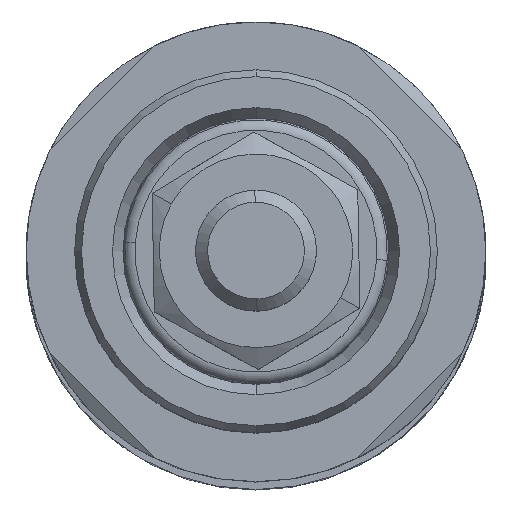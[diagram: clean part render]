
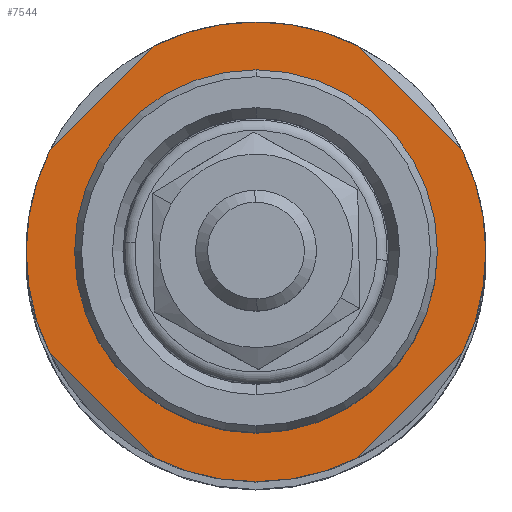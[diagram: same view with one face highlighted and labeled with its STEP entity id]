
A CAD part, top view. The second image highlights one B-rep face of the part: STEP entity #7544.
In plain terms, the highlighted planar face has unit normal (0, 0, 1).
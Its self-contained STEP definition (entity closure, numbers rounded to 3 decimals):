
#245 = CARTESIAN_POINT ( 'NONE',  ( -12.728, 12.728, 0. ) ) ;
#671 = EDGE_LOOP ( 'NONE', ( #7472, #3080, #1374, #857, #5847, #3413, #2114, #2244, #2336, #4556 ) ) ;
#774 = VERTEX_POINT ( 'NONE', #6790 ) ;
#801 = VECTOR ( 'NONE', #4721, 1000. ) ;
#857 = ORIENTED_EDGE ( 'NONE', *, *, #8112, .F. ) ;
#903 = VERTEX_POINT ( 'NONE', #3245 ) ;
#925 = CIRCLE ( 'NONE', #2589, 19. ) ;
#947 = EDGE_CURVE ( 'NONE', #7850, #7350, #8161, .T. ) ;
#981 = VECTOR ( 'NONE', #5676, 1000. ) ;
#1197 = VERTEX_POINT ( 'NONE', #5528 ) ;
#1361 = DIRECTION ( 'NONE',  ( 1., 0., 0. ) ) ;
#1367 = CARTESIAN_POINT ( 'NONE',  ( 0., 0., 0. ) ) ;
#1374 = ORIENTED_EDGE ( 'NONE', *, *, #4068, .T. ) ;
#1392 = CARTESIAN_POINT ( 'NONE',  ( 17.029, 8.427, 0. ) ) ;
#1415 = CARTESIAN_POINT ( 'NONE',  ( 0., 0., 0. ) ) ;
#1419 = LINE ( 'NONE', #245, #1723 ) ;
#1448 = DIRECTION ( 'NONE',  ( 0., 0., 1. ) ) ;
#1488 = CARTESIAN_POINT ( 'NONE',  ( 0., 0., 0. ) ) ;
#1604 = CARTESIAN_POINT ( 'NONE',  ( -17.029, -8.427, 0. ) ) ;
#1619 = AXIS2_PLACEMENT_3D ( 'NONE', #4135, #6113, #1670 ) ;
#1670 = DIRECTION ( 'NONE',  ( 1., 0., 0. ) ) ;
#1723 = VECTOR ( 'NONE', #7370, 1000. ) ;
#1806 = AXIS2_PLACEMENT_3D ( 'NONE', #8299, #6349, #7619 ) ;
#1876 = VERTEX_POINT ( 'NONE', #2706 ) ;
#1967 = CARTESIAN_POINT ( 'NONE',  ( 0., 0., 0. ) ) ;
#2051 = VERTEX_POINT ( 'NONE', #4811 ) ;
#2114 = ORIENTED_EDGE ( 'NONE', *, *, #3116, .T. ) ;
#2119 = EDGE_LOOP ( 'NONE', ( #6821, #5249 ) ) ;
#2121 = AXIS2_PLACEMENT_3D ( 'NONE', #1488, #2867, #5989 ) ;
#2204 = EDGE_CURVE ( 'NONE', #1197, #8282, #3412, .T. ) ;
#2242 = CARTESIAN_POINT ( 'NONE',  ( 0., 0., 0. ) ) ;
#2244 = ORIENTED_EDGE ( 'NONE', *, *, #6875, .T. ) ;
#2293 = EDGE_CURVE ( 'NONE', #7350, #7850, #3303, .T. ) ;
#2336 = ORIENTED_EDGE ( 'NONE', *, *, #2375, .F. ) ;
#2375 = EDGE_CURVE ( 'NONE', #1876, #2621, #6409, .T. ) ;
#2391 = EDGE_CURVE ( 'NONE', #5612, #774, #3895, .T. ) ;
#2474 = LINE ( 'NONE', #5935, #801 ) ;
#2498 = CARTESIAN_POINT ( 'NONE',  ( 0., 15., 0. ) ) ;
#2589 = AXIS2_PLACEMENT_3D ( 'NONE', #2242, #3057, #4889 ) ;
#2606 = DIRECTION ( 'NONE',  ( 1., 0., 0. ) ) ;
#2621 = VERTEX_POINT ( 'NONE', #1604 ) ;
#2706 = CARTESIAN_POINT ( 'NONE',  ( -8.427, -17.029, 0. ) ) ;
#2716 = DIRECTION ( 'NONE',  ( 0.707, -0.707, 0. ) ) ;
#2867 = DIRECTION ( 'NONE',  ( 0., 0., 1. ) ) ;
#2958 = LINE ( 'NONE', #7237, #3574 ) ;
#3057 = DIRECTION ( 'NONE',  ( 0., 0., 1. ) ) ;
#3076 = CIRCLE ( 'NONE', #4565, 19. ) ;
#3080 = ORIENTED_EDGE ( 'NONE', *, *, #2391, .T. ) ;
#3116 = EDGE_CURVE ( 'NONE', #903, #2051, #5549, .T. ) ;
#3245 = CARTESIAN_POINT ( 'NONE',  ( -17.029, 8.427, 0. ) ) ;
#3303 = CIRCLE ( 'NONE', #1806, 15. ) ;
#3412 = CIRCLE ( 'NONE', #3853, 19. ) ;
#3413 = ORIENTED_EDGE ( 'NONE', *, *, #5997, .F. ) ;
#3523 = AXIS2_PLACEMENT_3D ( 'NONE', #1415, #7105, #1361 ) ;
#3574 = VECTOR ( 'NONE', #2716, 1000. ) ;
#3853 = AXIS2_PLACEMENT_3D ( 'NONE', #7435, #6133, #6160 ) ;
#3895 = CIRCLE ( 'NONE', #5194, 19. ) ;
#4049 = PLANE ( 'NONE',  #2121 ) ;
#4068 = EDGE_CURVE ( 'NONE', #774, #6856, #7126, .T. ) ;
#4135 = CARTESIAN_POINT ( 'NONE',  ( 0., 0., 0. ) ) ;
#4310 = CARTESIAN_POINT ( 'NONE',  ( 17.029, -8.427, 0. ) ) ;
#4489 = DIRECTION ( 'NONE',  ( 0., 0., 1. ) ) ;
#4522 = DIRECTION ( 'NONE',  ( 1., 0., 0. ) ) ;
#4556 = ORIENTED_EDGE ( 'NONE', *, *, #5062, .T. ) ;
#4565 = AXIS2_PLACEMENT_3D ( 'NONE', #4631, #1448, #5947 ) ;
#4631 = CARTESIAN_POINT ( 'NONE',  ( 0., 0., 0. ) ) ;
#4721 = DIRECTION ( 'NONE',  ( -0.707, -0.707, 0. ) ) ;
#4790 = VERTEX_POINT ( 'NONE', #5574 ) ;
#4811 = CARTESIAN_POINT ( 'NONE',  ( -19., 0., 0. ) ) ;
#4889 = DIRECTION ( 'NONE',  ( 1., 0., 0. ) ) ;
#5062 = EDGE_CURVE ( 'NONE', #1876, #4790, #3076, .T. ) ;
#5080 = CARTESIAN_POINT ( 'NONE',  ( -8.427, 17.029, 0. ) ) ;
#5194 = AXIS2_PLACEMENT_3D ( 'NONE', #1367, #4489, #2606 ) ;
#5249 = ORIENTED_EDGE ( 'NONE', *, *, #947, .F. ) ;
#5282 = FACE_BOUND ( 'NONE', #2119, .T. ) ;
#5528 = CARTESIAN_POINT ( 'NONE',  ( 8.427, 17.029, 0. ) ) ;
#5549 = CIRCLE ( 'NONE', #1619, 19. ) ;
#5574 = CARTESIAN_POINT ( 'NONE',  ( 8.427, -17.029, 0. ) ) ;
#5612 = VERTEX_POINT ( 'NONE', #4310 ) ;
#5676 = DIRECTION ( 'NONE',  ( -0.707, 0.707, 0. ) ) ;
#5847 = ORIENTED_EDGE ( 'NONE', *, *, #2204, .T. ) ;
#5903 = FACE_OUTER_BOUND ( 'NONE', #671, .T. ) ;
#5935 = CARTESIAN_POINT ( 'NONE',  ( 12.728, -12.728, 0. ) ) ;
#5947 = DIRECTION ( 'NONE',  ( 1., 0., 0. ) ) ;
#5989 = DIRECTION ( 'NONE',  ( 1., 0., 0. ) ) ;
#5997 = EDGE_CURVE ( 'NONE', #903, #8282, #1419, .T. ) ;
#6113 = DIRECTION ( 'NONE',  ( 0., 0., 1. ) ) ;
#6133 = DIRECTION ( 'NONE',  ( 0., 0., 1. ) ) ;
#6160 = DIRECTION ( 'NONE',  ( 1., 0., 0. ) ) ;
#6337 = AXIS2_PLACEMENT_3D ( 'NONE', #1967, #7797, #4522 ) ;
#6349 = DIRECTION ( 'NONE',  ( 0., 0., 1. ) ) ;
#6409 = LINE ( 'NONE', #8239, #981 ) ;
#6790 = CARTESIAN_POINT ( 'NONE',  ( 19., 0., 0. ) ) ;
#6821 = ORIENTED_EDGE ( 'NONE', *, *, #2293, .F. ) ;
#6856 = VERTEX_POINT ( 'NONE', #1392 ) ;
#6875 = EDGE_CURVE ( 'NONE', #2051, #2621, #925, .T. ) ;
#6957 = CARTESIAN_POINT ( 'NONE',  ( 0., -15., 0. ) ) ;
#7105 = DIRECTION ( 'NONE',  ( 0., 0., 1. ) ) ;
#7126 = CIRCLE ( 'NONE', #3523, 19. ) ;
#7237 = CARTESIAN_POINT ( 'NONE',  ( 12.728, 12.728, 0. ) ) ;
#7350 = VERTEX_POINT ( 'NONE', #2498 ) ;
#7370 = DIRECTION ( 'NONE',  ( 0.707, 0.707, 0. ) ) ;
#7435 = CARTESIAN_POINT ( 'NONE',  ( 0., 0., 0. ) ) ;
#7472 = ORIENTED_EDGE ( 'NONE', *, *, #7494, .F. ) ;
#7494 = EDGE_CURVE ( 'NONE', #5612, #4790, #2474, .T. ) ;
#7544 = ADVANCED_FACE ( 'NONE', ( #5282, #5903 ), #4049, .T. ) ;
#7619 = DIRECTION ( 'NONE',  ( 1., 0., 0. ) ) ;
#7797 = DIRECTION ( 'NONE',  ( 0., 0., 1. ) ) ;
#7850 = VERTEX_POINT ( 'NONE', #6957 ) ;
#8112 = EDGE_CURVE ( 'NONE', #1197, #6856, #2958, .T. ) ;
#8161 = CIRCLE ( 'NONE', #6337, 15. ) ;
#8239 = CARTESIAN_POINT ( 'NONE',  ( -12.728, -12.728, 0. ) ) ;
#8282 = VERTEX_POINT ( 'NONE', #5080 ) ;
#8299 = CARTESIAN_POINT ( 'NONE',  ( 0., 0., 0. ) ) ;
